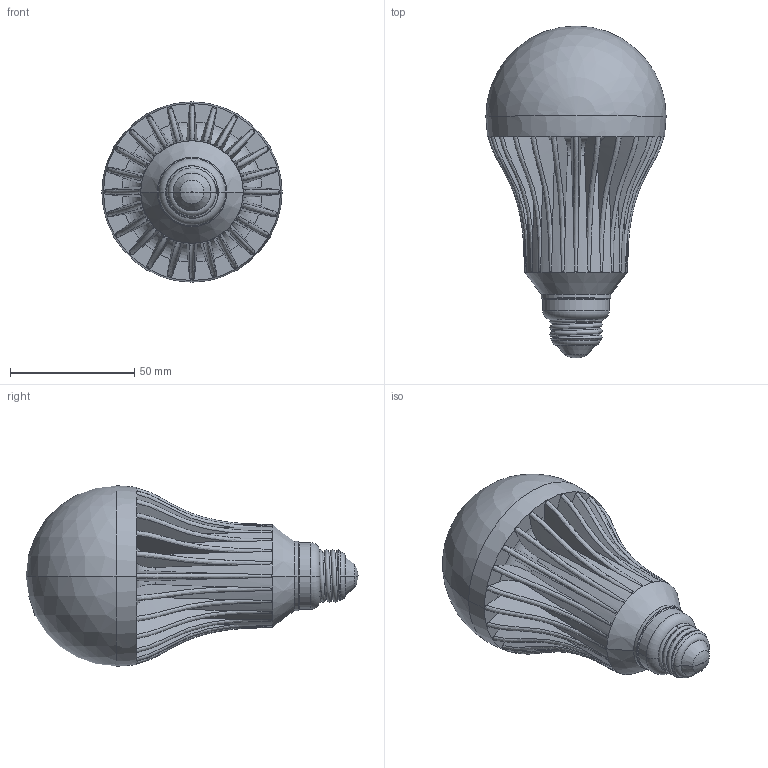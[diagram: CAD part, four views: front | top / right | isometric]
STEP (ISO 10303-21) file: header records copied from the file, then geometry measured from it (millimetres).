
FILE_DESCRIPTION (( 'STEP AP203' ), '1' );
FILE_NAME ('10W 237V Step.STEP', '2012-10-25T10:48:44', ( '' ), ( '' ), 'SwSTEP 2.0', 'SolidWorks 2011', '' );
FILE_SCHEMA (( 'CONFIG_CONTROL_DESIGN' ));
Length unit declared in the file: inch
Products named in the file (1): 10W 237V Step
Bounding box: 72.39 x 133.35 x 72.39 mm (x, y, z)
Volume: 240311.8 mm3; surface area: 32533.9 mm2
Topology: 1 solids, 1 shells, 167 faces, 470 edges, 304 vertices
Faces by surface type: bspline 78, torus 30, plane 30, cylinder 14, cone 11, sphere 4
Entity records: 11798 total; most frequent: CARTESIAN_POINT 8094, ORIENTED_EDGE 934, DIRECTION 545, EDGE_CURVE 467, VERTEX_POINT 303, AXIS2_PLACEMENT_3D 236, B_SPLINE_CURVE_WITH_KNOTS 204, EDGE_LOOP 168
